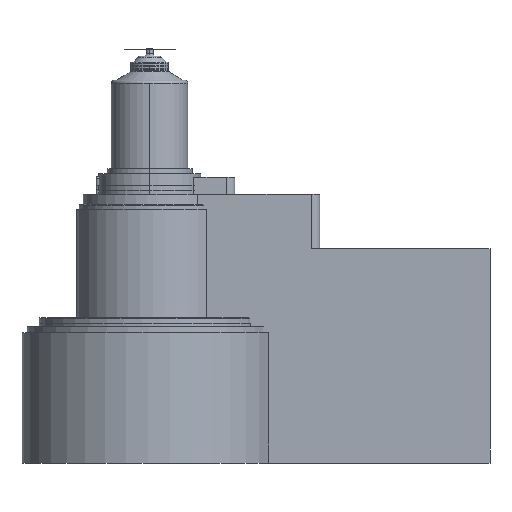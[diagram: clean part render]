
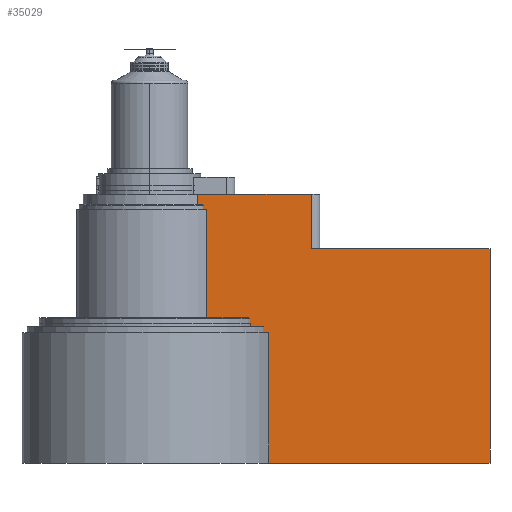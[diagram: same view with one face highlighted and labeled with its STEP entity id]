
A CAD part, front view. The second image highlights one B-rep face of the part: STEP entity #35029.
In plain terms, the highlighted planar face has unit normal (0, -1, 0).
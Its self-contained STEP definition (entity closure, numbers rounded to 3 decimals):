
#278 = CARTESIAN_POINT ( 'NONE',  ( 0., -27., -81. ) ) ;
#1414 = LINE ( 'NONE', #32422, #37668 ) ;
#1671 = DIRECTION ( 'NONE',  ( 0., 0., -1. ) ) ;
#1988 = ORIENTED_EDGE ( 'NONE', *, *, #71782, .F. ) ;
#2429 = DIRECTION ( 'NONE',  ( 0., 0., 1. ) ) ;
#2566 = DIRECTION ( 'NONE',  ( 0., 1., 0. ) ) ;
#3646 = VECTOR ( 'NONE', #103989, 1000. ) ;
#5470 = LINE ( 'NONE', #93632, #18390 ) ;
#7743 = LINE ( 'NONE', #24198, #62085 ) ;
#8641 = DIRECTION ( 'NONE',  ( 1., 0., 0. ) ) ;
#15413 = ORIENTED_EDGE ( 'NONE', *, *, #84294, .F. ) ;
#16825 = VECTOR ( 'NONE', #97882, 1000. ) ;
#17539 = LINE ( 'NONE', #43372, #106963 ) ;
#18390 = VECTOR ( 'NONE', #2429, 1000. ) ;
#18830 = VECTOR ( 'NONE', #83129, 1000. ) ;
#19186 = CARTESIAN_POINT ( 'NONE',  ( 69.971, -27., -163. ) ) ;
#22304 = CARTESIAN_POINT ( 'NONE',  ( 200., -27., -37. ) ) ;
#24198 = CARTESIAN_POINT ( 'NONE',  ( 28.142, -27., -5. ) ) ;
#27538 = PLANE ( 'NONE',  #50211 ) ;
#31034 = CARTESIAN_POINT ( 'NONE',  ( 95., -27., -5. ) ) ;
#31719 = CARTESIAN_POINT ( 'NONE',  ( 33.466, -27., -14. ) ) ;
#32422 = CARTESIAN_POINT ( 'NONE',  ( 0., -27., -86.5 ) ) ;
#32507 = VERTEX_POINT ( 'NONE', #19186 ) ;
#33624 = ORIENTED_EDGE ( 'NONE', *, *, #60829, .F. ) ;
#34748 = ORIENTED_EDGE ( 'NONE', *, *, #59061, .F. ) ;
#35029 = ADVANCED_FACE ( 'NONE', ( #101330 ), #27538, .F. ) ;
#35125 = CARTESIAN_POINT ( 'NONE',  ( 33.466, -27., -81. ) ) ;
#35448 = LINE ( 'NONE', #59742, #41823 ) ;
#36820 = EDGE_CURVE ( 'NONE', #92780, #89902, #106461, .T. ) ;
#37074 = CARTESIAN_POINT ( 'NONE',  ( 28.142, -27., -14. ) ) ;
#37339 = DIRECTION ( 'NONE',  ( 0., 0., 1. ) ) ;
#37492 = CARTESIAN_POINT ( 'NONE',  ( 200., -27., -37. ) ) ;
#37668 = VECTOR ( 'NONE', #65314, 1000. ) ;
#41823 = VECTOR ( 'NONE', #37339, 1000. ) ;
#43372 = CARTESIAN_POINT ( 'NONE',  ( 0., -27., -14. ) ) ;
#43742 = DIRECTION ( 'NONE',  ( -1., 0., 0. ) ) ;
#44257 = VERTEX_POINT ( 'NONE', #35125 ) ;
#44432 = CARTESIAN_POINT ( 'NONE',  ( 200., -27., -163. ) ) ;
#44458 = ORIENTED_EDGE ( 'NONE', *, *, #53221, .F. ) ;
#44851 = VERTEX_POINT ( 'NONE', #85882 ) ;
#46263 = VECTOR ( 'NONE', #90241, 1000. ) ;
#46598 = VECTOR ( 'NONE', #1671, 1000. ) ;
#47276 = DIRECTION ( 'NONE',  ( -1., 0., 0. ) ) ;
#49331 = CARTESIAN_POINT ( 'NONE',  ( 200., -27., -37. ) ) ;
#49737 = VECTOR ( 'NONE', #63890, 1000. ) ;
#50211 = AXIS2_PLACEMENT_3D ( 'NONE', #77789, #2566, #68375 ) ;
#50853 = CARTESIAN_POINT ( 'NONE',  ( 95., -27., 84.886 ) ) ;
#53221 = EDGE_CURVE ( 'NONE', #77046, #44851, #5470, .T. ) ;
#54475 = EDGE_CURVE ( 'NONE', #32507, #69719, #103636, .T. ) ;
#57480 = LINE ( 'NONE', #81311, #49737 ) ;
#58029 = VERTEX_POINT ( 'NONE', #83828 ) ;
#58180 = LINE ( 'NONE', #50853, #46598 ) ;
#59061 = EDGE_CURVE ( 'NONE', #44851, #44257, #106885, .T. ) ;
#59742 = CARTESIAN_POINT ( 'NONE',  ( 33.466, -27., 34.716 ) ) ;
#60829 = EDGE_CURVE ( 'NONE', #44257, #104297, #35448, .T. ) ;
#61886 = VERTEX_POINT ( 'NONE', #37074 ) ;
#62085 = VECTOR ( 'NONE', #8641, 1000. ) ;
#63890 = DIRECTION ( 'NONE',  ( 0., 0., -1. ) ) ;
#63992 = ORIENTED_EDGE ( 'NONE', *, *, #76064, .F. ) ;
#64023 = ORIENTED_EDGE ( 'NONE', *, *, #64614, .F. ) ;
#64614 = EDGE_CURVE ( 'NONE', #69719, #77046, #1414, .T. ) ;
#65314 = DIRECTION ( 'NONE',  ( -1., 0., 0. ) ) ;
#66901 = LINE ( 'NONE', #49331, #46263 ) ;
#67092 = CARTESIAN_POINT ( 'NONE',  ( 59.127, -27., -86.5 ) ) ;
#68375 = DIRECTION ( 'NONE',  ( 0., 0., 1. ) ) ;
#69719 = VERTEX_POINT ( 'NONE', #82694 ) ;
#69974 = CARTESIAN_POINT ( 'NONE',  ( 200., -27., -163. ) ) ;
#71782 = EDGE_CURVE ( 'NONE', #74198, #89902, #58180, .T. ) ;
#74198 = VERTEX_POINT ( 'NONE', #31034 ) ;
#74615 = ORIENTED_EDGE ( 'NONE', *, *, #104286, .T. ) ;
#76064 = EDGE_CURVE ( 'NONE', #104297, #61886, #17539, .T. ) ;
#77046 = VERTEX_POINT ( 'NONE', #67092 ) ;
#77789 = CARTESIAN_POINT ( 'NONE',  ( 200., -27., -37. ) ) ;
#78022 = VECTOR ( 'NONE', #47276, 1000. ) ;
#79547 = EDGE_LOOP ( 'NONE', ( #87432, #96251, #106715, #96842, #1988, #15413, #74615, #63992, #33624, #34748, #44458, #64023 ) ) ;
#79844 = CARTESIAN_POINT ( 'NONE',  ( 69.971, -27., 34.716 ) ) ;
#81311 = CARTESIAN_POINT ( 'NONE',  ( 28.142, -27., 84.886 ) ) ;
#82694 = CARTESIAN_POINT ( 'NONE',  ( 69.971, -27., -86.5 ) ) ;
#83129 = DIRECTION ( 'NONE',  ( -1., 0., 0. ) ) ;
#83828 = CARTESIAN_POINT ( 'NONE',  ( 28.142, -27., -5. ) ) ;
#84294 = EDGE_CURVE ( 'NONE', #58029, #74198, #7743, .T. ) ;
#85882 = CARTESIAN_POINT ( 'NONE',  ( 59.127, -27., -81. ) ) ;
#85983 = CARTESIAN_POINT ( 'NONE',  ( 95., -27., -37. ) ) ;
#87432 = ORIENTED_EDGE ( 'NONE', *, *, #54475, .F. ) ;
#89902 = VERTEX_POINT ( 'NONE', #85983 ) ;
#90241 = DIRECTION ( 'NONE',  ( 0., 0., -1. ) ) ;
#90727 = VERTEX_POINT ( 'NONE', #44432 ) ;
#92780 = VERTEX_POINT ( 'NONE', #37492 ) ;
#93632 = CARTESIAN_POINT ( 'NONE',  ( 59.127, -27., 34.716 ) ) ;
#94151 = EDGE_CURVE ( 'NONE', #90727, #32507, #103264, .T. ) ;
#94475 = EDGE_CURVE ( 'NONE', #92780, #90727, #66901, .T. ) ;
#96251 = ORIENTED_EDGE ( 'NONE', *, *, #94151, .F. ) ;
#96842 = ORIENTED_EDGE ( 'NONE', *, *, #36820, .T. ) ;
#97882 = DIRECTION ( 'NONE',  ( 0., 0., 1. ) ) ;
#101330 = FACE_OUTER_BOUND ( 'NONE', #79547, .T. ) ;
#103264 = LINE ( 'NONE', #69974, #3646 ) ;
#103636 = LINE ( 'NONE', #79844, #16825 ) ;
#103989 = DIRECTION ( 'NONE',  ( -1., 0., 0. ) ) ;
#104286 = EDGE_CURVE ( 'NONE', #58029, #61886, #57480, .T. ) ;
#104297 = VERTEX_POINT ( 'NONE', #31719 ) ;
#106461 = LINE ( 'NONE', #22304, #78022 ) ;
#106715 = ORIENTED_EDGE ( 'NONE', *, *, #94475, .F. ) ;
#106885 = LINE ( 'NONE', #278, #18830 ) ;
#106963 = VECTOR ( 'NONE', #43742, 1000. ) ;
